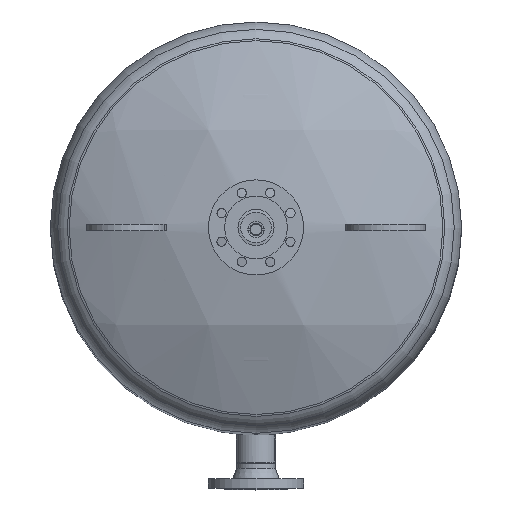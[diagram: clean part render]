
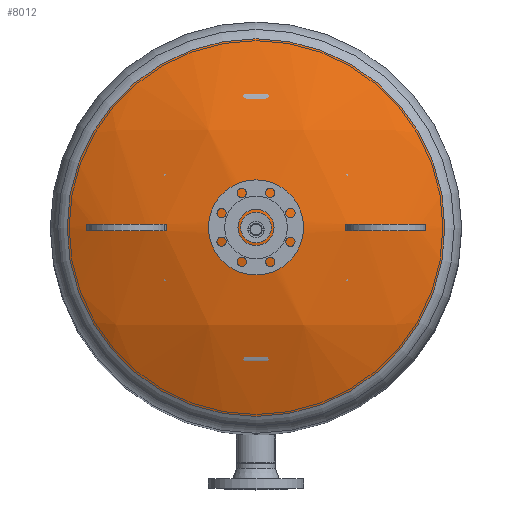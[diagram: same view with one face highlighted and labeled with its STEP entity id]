
A CAD part, top view. The second image highlights one B-rep face of the part: STEP entity #8012.
In plain terms, the highlighted spherical face has radius 808 mm.
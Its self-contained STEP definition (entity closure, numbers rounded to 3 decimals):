
#6696=CARTESIAN_POINT('',(-178.132,6.,1403.826));
#6697=VERTEX_POINT('',#6696);
#6698=CARTESIAN_POINT('',(-178.132,-6.,1403.826));
#6699=VERTEX_POINT('',#6698);
#6700=CARTESIAN_POINT('',(-248.626,0.,1380.921));
#6701=DIRECTION('',(0.309,0.0,-0.951));
#6702=DIRECTION('',(0.0,-1.0,0.0));
#6703=AXIS2_PLACEMENT_3D('',#6700,#6701,#6702);
#6704=CIRCLE('',#6703,74.365);
#6705=EDGE_CURVE('',#6697,#6699,#6704,.T.);
#6737=CARTESIAN_POINT('',(-214.33,-6.,1394.76));
#6738=VERTEX_POINT('',#6737);
#6739=CARTESIAN_POINT('',(0.,-6.,615.729));
#6740=DIRECTION('',(0.0,-1.0,0.0));
#6741=DIRECTION('',(0.0,0.0,1.0));
#6742=AXIS2_PLACEMENT_3D('',#6739,#6740,#6741);
#6743=CIRCLE('',#6742,807.978);
#6744=EDGE_CURVE('',#6699,#6738,#6743,.T.);
#6772=CARTESIAN_POINT('',(-319.12,-6.,1358.016));
#6773=VERTEX_POINT('',#6772);
#6780=CARTESIAN_POINT('',(-282.831,-6.,1372.587));
#6781=VERTEX_POINT('',#6780);
#6782=CARTESIAN_POINT('',(0.,-6.,615.729));
#6783=DIRECTION('',(0.0,-1.0,0.0));
#6784=DIRECTION('',(0.0,0.0,1.0));
#6785=AXIS2_PLACEMENT_3D('',#6782,#6783,#6784);
#6786=CIRCLE('',#6785,807.978);
#6787=EDGE_CURVE('',#6781,#6773,#6786,.T.);
#6820=CARTESIAN_POINT('',(-319.12,6.,1358.016));
#6821=VERTEX_POINT('',#6820);
#6822=CARTESIAN_POINT('',(-248.626,0.,1380.921));
#6823=DIRECTION('',(0.309,0.0,-0.951));
#6824=DIRECTION('',(0.0,-1.0,0.0));
#6825=AXIS2_PLACEMENT_3D('',#6822,#6823,#6824);
#6826=CIRCLE('',#6825,74.365);
#6827=EDGE_CURVE('',#6773,#6821,#6826,.T.);
#6852=CARTESIAN_POINT('',(-282.831,6.,1372.587));
#6853=VERTEX_POINT('',#6852);
#6854=CARTESIAN_POINT('',(-33.388,0.,604.88));
#6855=DIRECTION('',(0.951,0.,0.309));
#6856=DIRECTION('',(-0.309,0.0,0.951));
#6857=AXIS2_PLACEMENT_3D('',#6854,#6855,#6856);
#6858=CIRCLE('',#6857,807.237);
#6859=EDGE_CURVE('',#6853,#6781,#6858,.T.);
#6909=CARTESIAN_POINT('',(-214.33,6.,1394.76));
#6910=VERTEX_POINT('',#6909);
#6911=CARTESIAN_POINT('',(35.088,0.,627.129));
#6912=DIRECTION('',(-0.951,0.,-0.309));
#6913=DIRECTION('',(0.309,0.0,-0.951));
#6914=AXIS2_PLACEMENT_3D('',#6911,#6912,#6913);
#6915=CIRCLE('',#6914,807.157);
#6916=EDGE_CURVE('',#6738,#6910,#6915,.T.);
#7000=CARTESIAN_POINT('',(0.,6.,615.729));
#7001=DIRECTION('',(0.0,1.0,0.0));
#7002=DIRECTION('',(0.0,0.0,-1.0));
#7003=AXIS2_PLACEMENT_3D('',#7000,#7001,#7002);
#7004=CIRCLE('',#7003,807.978);
#7005=EDGE_CURVE('',#6910,#6697,#7004,.T.);
#7010=CARTESIAN_POINT('',(0.,6.,615.729));
#7011=DIRECTION('',(0.0,1.0,0.0));
#7012=DIRECTION('',(0.0,0.0,-1.0));
#7013=AXIS2_PLACEMENT_3D('',#7010,#7011,#7012);
#7014=CIRCLE('',#7013,807.978);
#7015=EDGE_CURVE('',#6821,#6853,#7014,.T.);
#7030=CARTESIAN_POINT('',(178.132,-6.,1403.826));
#7031=VERTEX_POINT('',#7030);
#7032=CARTESIAN_POINT('',(178.132,6.,1403.826));
#7033=VERTEX_POINT('',#7032);
#7034=CARTESIAN_POINT('',(248.626,0.,1380.921));
#7035=DIRECTION('',(-0.309,0.0,-0.951));
#7036=DIRECTION('',(0.0,-1.0,0.0));
#7037=AXIS2_PLACEMENT_3D('',#7034,#7035,#7036);
#7038=CIRCLE('',#7037,74.365);
#7039=EDGE_CURVE('',#7031,#7033,#7038,.T.);
#7071=CARTESIAN_POINT('',(214.33,6.,1394.76));
#7072=VERTEX_POINT('',#7071);
#7073=CARTESIAN_POINT('',(0.,6.,615.729));
#7074=DIRECTION('',(0.0,1.0,0.0));
#7075=DIRECTION('',(0.0,0.0,-1.0));
#7076=AXIS2_PLACEMENT_3D('',#7073,#7074,#7075);
#7077=CIRCLE('',#7076,807.978);
#7078=EDGE_CURVE('',#7033,#7072,#7077,.T.);
#7106=CARTESIAN_POINT('',(319.12,6.,1358.016));
#7107=VERTEX_POINT('',#7106);
#7114=CARTESIAN_POINT('',(282.831,6.,1372.587));
#7115=VERTEX_POINT('',#7114);
#7116=CARTESIAN_POINT('',(0.,6.,615.729));
#7117=DIRECTION('',(0.0,1.0,0.0));
#7118=DIRECTION('',(0.0,0.0,-1.0));
#7119=AXIS2_PLACEMENT_3D('',#7116,#7117,#7118);
#7120=CIRCLE('',#7119,807.978);
#7121=EDGE_CURVE('',#7115,#7107,#7120,.T.);
#7154=CARTESIAN_POINT('',(319.12,-6.,1358.016));
#7155=VERTEX_POINT('',#7154);
#7156=CARTESIAN_POINT('',(248.626,0.,1380.921));
#7157=DIRECTION('',(-0.309,0.0,-0.951));
#7158=DIRECTION('',(0.0,-1.0,0.0));
#7159=AXIS2_PLACEMENT_3D('',#7156,#7157,#7158);
#7160=CIRCLE('',#7159,74.365);
#7161=EDGE_CURVE('',#7107,#7155,#7160,.T.);
#7186=CARTESIAN_POINT('',(282.831,-6.,1372.587));
#7187=VERTEX_POINT('',#7186);
#7188=CARTESIAN_POINT('',(33.388,0.,604.88));
#7189=DIRECTION('',(-0.951,0.,0.309));
#7190=DIRECTION('',(-0.309,0.0,-0.951));
#7191=AXIS2_PLACEMENT_3D('',#7188,#7189,#7190);
#7192=CIRCLE('',#7191,807.237);
#7193=EDGE_CURVE('',#7187,#7115,#7192,.T.);
#7243=CARTESIAN_POINT('',(214.33,-6.,1394.76));
#7244=VERTEX_POINT('',#7243);
#7245=CARTESIAN_POINT('',(-35.088,0.,627.129));
#7246=DIRECTION('',(0.951,0.,-0.309));
#7247=DIRECTION('',(0.309,0.0,0.951));
#7248=AXIS2_PLACEMENT_3D('',#7245,#7246,#7247);
#7249=CIRCLE('',#7248,807.157);
#7250=EDGE_CURVE('',#7072,#7244,#7249,.T.);
#7334=CARTESIAN_POINT('',(0.,-6.,615.729));
#7335=DIRECTION('',(0.0,-1.0,0.0));
#7336=DIRECTION('',(0.0,0.0,1.0));
#7337=AXIS2_PLACEMENT_3D('',#7334,#7335,#7336);
#7338=CIRCLE('',#7337,807.978);
#7339=EDGE_CURVE('',#7244,#7031,#7338,.T.);
#7344=CARTESIAN_POINT('',(0.,-6.,615.729));
#7345=DIRECTION('',(0.0,-1.0,0.0));
#7346=DIRECTION('',(0.0,0.0,1.0));
#7347=AXIS2_PLACEMENT_3D('',#7344,#7345,#7346);
#7348=CIRCLE('',#7347,807.978);
#7349=EDGE_CURVE('',#7155,#7187,#7348,.T.);
#7750=CARTESIAN_POINT('',(-30.,0.,1423.171));
#7751=VERTEX_POINT('',#7750);
#7752=CARTESIAN_POINT('',(0.,0.,1423.171));
#7753=DIRECTION('',(0.0,0.0,-1.0));
#7754=DIRECTION('',(1.0,0.0,0.0));
#7755=AXIS2_PLACEMENT_3D('',#7752,#7753,#7754);
#7756=CIRCLE('',#7755,30.0);
#7757=EDGE_CURVE('',#7751,#7751,#7756,.T.);
#7962=CARTESIAN_POINT('',(-367.249,0.,1335.445));
#7963=VERTEX_POINT('',#7962);
#7964=CARTESIAN_POINT('',(0.,0.,1335.445));
#7965=DIRECTION('',(0.0,0.0,1.0));
#7966=DIRECTION('',(-1.0,0.0,0.0));
#7967=AXIS2_PLACEMENT_3D('',#7964,#7965,#7966);
#7968=CIRCLE('',#7967,367.249);
#7969=EDGE_CURVE('',#7963,#7963,#7968,.T.);
#7977=CARTESIAN_POINT('',(0.,0.,615.729));
#7978=DIRECTION('',(0.0,-1.0,0.0));
#7979=DIRECTION('',(-1.0,0.0,0.0));
#7980=AXIS2_PLACEMENT_3D('',#7977,#7978,#7979);
#7981=SPHERICAL_SURFACE('',#7980,808.);
#7982=ORIENTED_EDGE('',*,*,#6705,.T.);
#7983=ORIENTED_EDGE('',*,*,#6744,.T.);
#7984=ORIENTED_EDGE('',*,*,#6916,.T.);
#7985=ORIENTED_EDGE('',*,*,#7005,.T.);
#7986=EDGE_LOOP('',(#7982,#7983,#7984,#7985));
#7987=FACE_OUTER_BOUND('',#7986,.T.);
#7988=ORIENTED_EDGE('',*,*,#6827,.T.);
#7989=ORIENTED_EDGE('',*,*,#7015,.T.);
#7990=ORIENTED_EDGE('',*,*,#6859,.T.);
#7991=ORIENTED_EDGE('',*,*,#6787,.T.);
#7992=EDGE_LOOP('',(#7988,#7989,#7990,#7991));
#7993=FACE_BOUND('',#7992,.T.);
#7994=ORIENTED_EDGE('',*,*,#7039,.T.);
#7995=ORIENTED_EDGE('',*,*,#7078,.T.);
#7996=ORIENTED_EDGE('',*,*,#7250,.T.);
#7997=ORIENTED_EDGE('',*,*,#7339,.T.);
#7998=EDGE_LOOP('',(#7994,#7995,#7996,#7997));
#7999=FACE_BOUND('',#7998,.T.);
#8000=ORIENTED_EDGE('',*,*,#7161,.T.);
#8001=ORIENTED_EDGE('',*,*,#7349,.T.);
#8002=ORIENTED_EDGE('',*,*,#7193,.T.);
#8003=ORIENTED_EDGE('',*,*,#7121,.T.);
#8004=EDGE_LOOP('',(#8000,#8001,#8002,#8003));
#8005=FACE_BOUND('',#8004,.T.);
#8006=ORIENTED_EDGE('',*,*,#7757,.T.);
#8007=EDGE_LOOP('',(#8006));
#8008=FACE_BOUND('',#8007,.T.);
#8009=ORIENTED_EDGE('',*,*,#7969,.T.);
#8010=EDGE_LOOP('',(#8009));
#8011=FACE_BOUND('',#8010,.T.);
#8012=ADVANCED_FACE('',(#7987,#7993,#7999,#8005,#8008,#8011),#7981,.T.);
